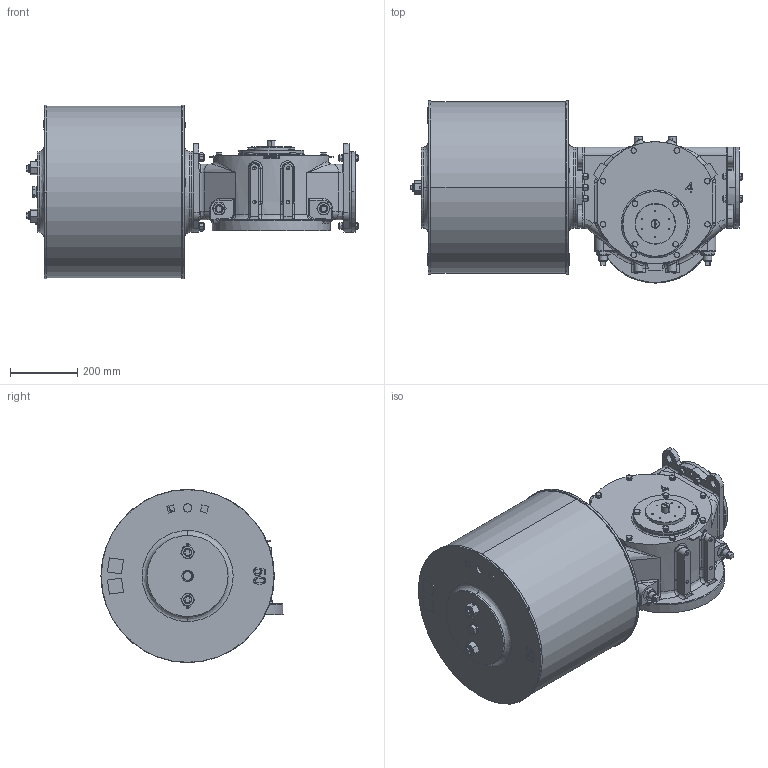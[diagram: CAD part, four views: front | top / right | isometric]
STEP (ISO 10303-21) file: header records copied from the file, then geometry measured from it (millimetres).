
FILE_DESCRIPTION (( 'STEP AP203' ), '1' );
FILE_NAME ('VTS4-500.STEP', '2023-01-01T09:32:09', ( '' ), ( '' ), 'SwSTEP 2.0', 'SolidWorks 2020', '' );
FILE_SCHEMA (( 'CONFIG_CONTROL_DESIGN' ));
Length unit declared in the file: millimetre
Products named in the file (1): VTS4-500
Bounding box: 984.68 x 540 x 514 mm (x, y, z)
Volume: 115547563 mm3; surface area: 2137201.8 mm2
Topology: 3 solids, 6 shells, 1721 faces, 4414 edges, 2795 vertices
Faces by surface type: plane 739, cylinder 519, cone 353, bspline 110
Entity records: 65448 total; most frequent: CARTESIAN_POINT 24575, ORIENTED_EDGE 8728, DIRECTION 8363, EDGE_CURVE 4364, AXIS2_PLACEMENT_3D 3265, VERTEX_POINT 2795, EDGE_LOOP 1925, VECTOR 1833
